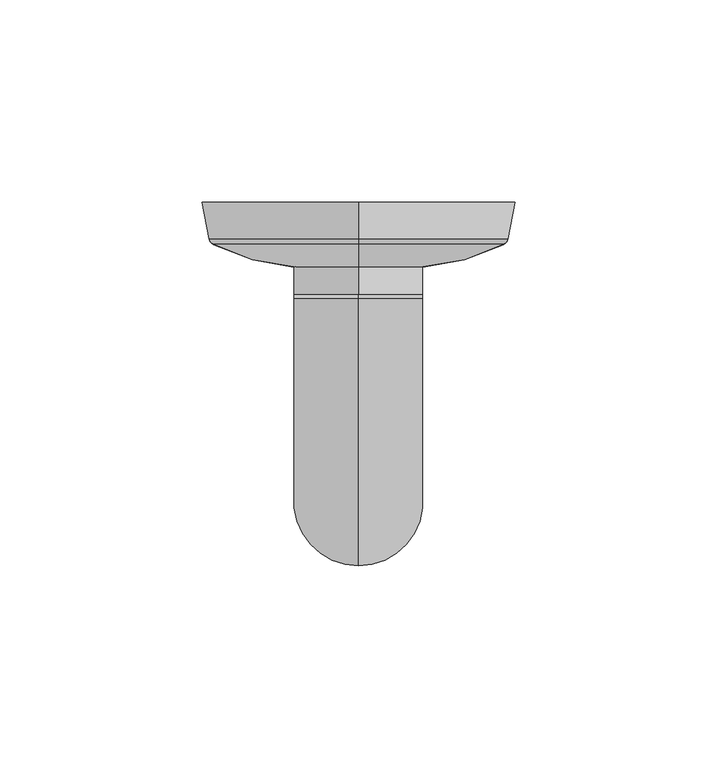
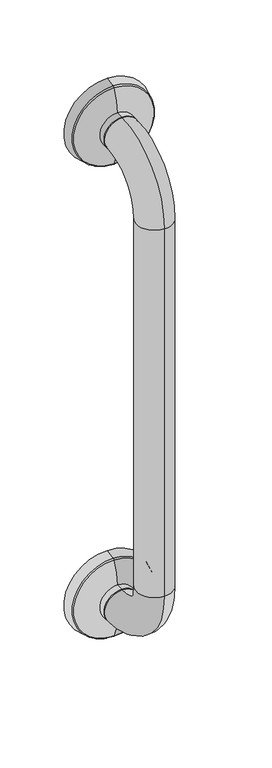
"""IFC4 building model written with IfcOpenShell, lengths in millimetres: proxy geometry, Grab Rail_Metlam_Straight_Vertical : 482long x 90d x 32w (ML330_1SS)."""

from ifc_helpers import new_model, si_unit, point, frame, origin, place, context, project, spatial, polyline, circle_curve, ellipse_curve, trimmed, source, transform, mapped, element, save
from ifc_brep_helpers import plane_surface, cylinder_surface, revolved_surface, advanced_brep


def specialty_equipment_e08adb38(model_context):
    return source(origin(), model_context, "Body", "AdvancedBrep", [
        advanced_brep(
        [(0.0, -90.0, 834.0), (0.0, -24.0, 768.0), (0.0, -24.0, 800.0), (0.0, -58.0, 834.0), (0.0, -58.0, 1184.0), (0.0, -90.0, 1184.0), (0.0, -24.0, 1218.0), (0.0, -24.0, 1250.0), (0.0, -23.0, 768.0), (0.0, -23.0, 800.0), (0.0, -23.0, 1218.0), (0.0, -23.0, 1250.0), (0.0, 0.0, 1234.0), (0.0, 0.0, 1195.0), (0.0, 0.0, 1273.0), (0.0, -9.0646354, 1196.8129271), (0.0, -9.0646354, 1271.1870729), (0.0, -10.4521085, 1270.1384075), (0.0, -10.4521085, 1197.8615925), (0.0, -16.0065539, 1218.0), (0.0, -16.0065539, 1250.0), (0.0, -9.0646354, 746.8129271), (0.0, -9.0646354, 821.1870729), (0.0, 0.0, 823.0), (0.0, 0.0, 745.0), (0.0, -16.0065539, 768.0), (0.0, -16.0065539, 800.0), (0.0, -10.4521085, 820.1384075), (0.0, -10.4521085, 747.8615925), (0.0, 0.0, 784.0)],
        [
            (0, 1, circle_curve(frame((0.0, -24.0, 834.0), z_axis=(1.0, 0.0, 0.0), x_axis=(0.0, 0.0, -1.0)), 66.0)),
            (1, 2, circle_curve(frame((0.0, -24.0, 784.0), z_axis=(0.0, -1.0, 0.0), x_axis=(0.0, 0.0, -1.0)), 16.0)),
            (2, 3, circle_curve(frame((0.0, -24.0, 834.0), z_axis=(-1.0, 0.0, 0.0), x_axis=(0.0, 0.0, -1.0)), 34.0)),
            (3, 0, circle_curve(frame((0.0, -74.0, 834.0), z_axis=(0.0, 0.0, -1.0), x_axis=(0.0, -1.0, 0.0)), 16.0)),
            (0, 3, circle_curve(frame((0.0, -74.0, 834.0), z_axis=(0.0, 0.0, -1.0), x_axis=(0.0, -1.0, 0.0)), 16.0)),
            (2, 1, circle_curve(frame((0.0, -24.0, 784.0), z_axis=(0.0, -1.0, 0.0), x_axis=(0.0, 0.0, -1.0)), 16.0)),
            (3, 4),
            (4, 5, circle_curve(frame((0.0, -74.0, 1184.0), z_axis=(0.0, 0.0, -1.0), x_axis=(0.0, -1.0, 0.0)), 16.0)),
            (5, 0),
            (5, 4, circle_curve(frame((0.0, -74.0, 1184.0), z_axis=(0.0, 0.0, -1.0), x_axis=(0.0, -1.0, 0.0)), 16.0)),
            (4, 6, circle_curve(frame((0.0, -24.0, 1184.0), z_axis=(-1.0, 0.0, 0.0), x_axis=(0.0, -1.0, 0.0)), 34.0)),
            (6, 7, circle_curve(frame((0.0, -24.0, 1234.0), z_axis=(0.0, -1.0, 0.0), x_axis=(0.0, 0.0, 1.0)), 16.0)),
            (7, 5, circle_curve(frame((0.0, -24.0, 1184.0), z_axis=(1.0, 0.0, 0.0), x_axis=(0.0, -1.0, 0.0)), 66.0)),
            (7, 6, circle_curve(frame((0.0, -24.0, 1234.0), z_axis=(0.0, -1.0, 0.0), x_axis=(0.0, 0.0, 1.0)), 16.0)),
            (1, 8),
            (8, 9, circle_curve(frame((0.0, -23.0, 784.0), z_axis=(0.0, -1.0, 0.0), x_axis=(0.0, 0.0, -1.0)), 16.0)),
            (9, 2),
            (9, 8, circle_curve(frame((0.0, -23.0, 784.0), z_axis=(0.0, -1.0, 0.0), x_axis=(0.0, 0.0, -1.0)), 16.0)),
            (6, 10),
            (10, 11, circle_curve(frame((0.0, -23.0, 1234.0), z_axis=(0.0, -1.0, 0.0), x_axis=(0.0, 0.0, 1.0)), 16.0)),
            (11, 7),
            (11, 10, circle_curve(frame((0.0, -23.0, 1234.0), z_axis=(0.0, -1.0, 0.0), x_axis=(0.0, 0.0, 1.0)), 16.0)),
            (12, 13),
            (13, 14, circle_curve(frame((0.0, 0.0, 1234.0), z_axis=(0.0, 1.0, 0.0), x_axis=(0.0, 0.0, -1.0)), 39.0)),
            (14, 12),
            (14, 13, circle_curve(frame((0.0, 0.0, 1234.0), z_axis=(0.0, 1.0, 0.0), x_axis=(0.0, 0.0, -1.0)), 39.0)),
            (13, 15),
            (15, 16, circle_curve(frame((0.0, -9.0646354, 1234.0), z_axis=(0.0, 1.0, 0.0), x_axis=(0.0, 0.0, -1.0)), 37.1870729)),
            (16, 14),
            (16, 15, circle_curve(frame((0.0, -9.0646354, 1234.0), z_axis=(0.0, 1.0, 0.0), x_axis=(0.0, 0.0, -1.0)), 37.1870729)),
            (17, 18, circle_curve(frame((0.0, -10.4521085, 1234.0), z_axis=(0.0, -1.0, 0.0), x_axis=(0.0, 0.0, -1.0)), 36.1384075)),
            (18, 19, circle_curve(frame((0.0, 35.2834961, 1221.3112908), z_axis=(-1.0, 0.0, 0.0), x_axis=(0.0, 1.0, 0.0)), 51.3968275)),
            (19, 20, circle_curve(frame((0.0, -16.0065539, 1234.0), z_axis=(0.0, 1.0, 0.0), x_axis=(0.0, 0.0, -1.0)), 16.0)),
            (20, 17, circle_curve(frame((0.0, 35.2834961, 1246.6887092), z_axis=(-1.0, 0.0, 0.0), x_axis=(0.0, 1.0, 0.0)), 51.3968275)),
            (18, 17, circle_curve(frame((0.0, -10.4521085, 1234.0), z_axis=(0.0, -1.0, 0.0), x_axis=(0.0, 0.0, -1.0)), 36.1384075)),
            (20, 19, circle_curve(frame((0.0, -16.0065539, 1234.0), z_axis=(0.0, 1.0, 0.0), x_axis=(0.0, 0.0, -1.0)), 16.0)),
            (19, 10),
            (11, 20),
            (15, 18, circle_curve(frame((0.0, -8.6724031, 1198.7740884), z_axis=(-1.0, 0.0, 0.0), x_axis=(0.0, 1.0, 0.0)), 2.0)),
            (17, 16, circle_curve(frame((0.0, -8.6724031, 1269.2259116), z_axis=(-1.0, 0.0, 0.0), x_axis=(0.0, 1.0, 0.0)), 2.0)),
            (21, 22, circle_curve(frame((0.0, -9.0646354, 784.0), z_axis=(0.0, 1.0, 0.0), x_axis=(0.0, 0.0, 1.0)), 37.1870729)),
            (22, 23),
            (23, 24, circle_curve(frame((0.0, 0.0, 784.0), z_axis=(0.0, -1.0, 0.0), x_axis=(0.0, 0.0, 1.0)), 39.0)),
            (24, 21),
            (22, 21, circle_curve(frame((0.0, -9.0646354, 784.0), z_axis=(0.0, 1.0, 0.0), x_axis=(0.0, 0.0, 1.0)), 37.1870729)),
            (24, 23, circle_curve(frame((0.0, 0.0, 784.0), z_axis=(0.0, -1.0, 0.0), x_axis=(0.0, 0.0, 1.0)), 39.0)),
            (25, 26, circle_curve(frame((0.0, -16.0065539, 784.0), z_axis=(0.0, 1.0, 0.0), x_axis=(0.0, 0.0, 1.0)), 16.0)),
            (26, 27, circle_curve(frame((0.0, 35.2834961, 796.6887092), z_axis=(-1.0, 0.0, 0.0), x_axis=(0.0, 1.0, 0.0)), 51.3968275)),
            (27, 28, circle_curve(frame((0.0, -10.4521085, 784.0), z_axis=(0.0, -1.0, 0.0), x_axis=(0.0, 0.0, 1.0)), 36.1384075)),
            (28, 25, circle_curve(frame((0.0, 35.2834961, 771.3112908), z_axis=(-1.0, 0.0, 0.0), x_axis=(0.0, 1.0, 0.0)), 51.3968275)),
            (26, 25, circle_curve(frame((0.0, -16.0065539, 784.0), z_axis=(0.0, 1.0, 0.0), x_axis=(0.0, 0.0, 1.0)), 16.0)),
            (28, 27, circle_curve(frame((0.0, -10.4521085, 784.0), z_axis=(0.0, -1.0, 0.0), x_axis=(0.0, 0.0, 1.0)), 36.1384075)),
            (25, 8),
            (9, 26),
            (23, 29),
            (29, 24),
            (21, 28, circle_curve(frame((0.0, -8.6724031, 748.7740884), z_axis=(-1.0, 0.0, 0.0), x_axis=(0.0, 1.0, 0.0)), 2.0)),
            (27, 22, circle_curve(frame((0.0, -8.6724031, 819.2259116), z_axis=(-1.0, 0.0, 0.0), x_axis=(0.0, 1.0, 0.0)), 2.0)),
        ],
        [
            revolved_surface(trimmed(ellipse_curve(frame((0.0, -24.0, 784.0), z_axis=(0.0, 1.0, 0.0), x_axis=(0.0, 0.0, -1.0)), 16.0, 16.0), [point((0.0, -24.0, 800.0))], [point((0.0, -24.0, 768.0))], True, "CARTESIAN"), (0.0, -24.0, 834.0), (-1.0, 0.0, 0.0)),
            revolved_surface(trimmed(ellipse_curve(frame((0.0, -24.0, 784.0), z_axis=(0.0, 1.0, 0.0), x_axis=(0.0, 0.0, -1.0)), 16.0, 16.0), [point((0.0, -24.0, 768.0))], [point((0.0, -24.0, 800.0))], True, "CARTESIAN"), (0.0, -24.0, 834.0), (-1.0, 0.0, 0.0)),
            cylinder_surface(frame((0.0, -74.0, 834.0), z_axis=(0.0, 0.0, -1.0), x_axis=(0.0, -1.0, 0.0)), 16.0),
            revolved_surface(trimmed(ellipse_curve(frame((0.0, -74.0, 1184.0), z_axis=(0.0, 0.0, -1.0), x_axis=(0.0, -1.0, 0.0)), 16.0, 16.0), [point((0.0, -58.0, 1184.0))], [point((0.0, -90.0, 1184.0))], True, "CARTESIAN"), (0.0, -24.0, 1184.0), (-1.0, 0.0, 0.0)),
            revolved_surface(trimmed(ellipse_curve(frame((0.0, -74.0, 1184.0), z_axis=(0.0, 0.0, -1.0), x_axis=(0.0, -1.0, 0.0)), 16.0, 16.0), [point((0.0, -90.0, 1184.0))], [point((0.0, -58.0, 1184.0))], True, "CARTESIAN"), (0.0, -24.0, 1184.0), (-1.0, 0.0, 0.0)),
            cylinder_surface(frame((0.0, -23.0, 784.0), z_axis=(0.0, 1.0, 0.0), x_axis=(0.0, 0.0, -1.0)), 16.0),
            cylinder_surface(frame((0.0, -24.0, 1234.0), z_axis=(0.0, -1.0, 0.0), x_axis=(0.0, 0.0, 1.0)), 16.0),
            plane_surface(frame((0.0, 0.0, 1234.0), z_axis=(0.0, 1.0, 0.0), x_axis=(0.0, 0.0, -1.0))),
            revolved_surface(polyline([(0.0, -9.0646354, 1196.8129271), (0.0, 0.0, 1195.0)]), (0.0, -10.0, 1234.0), (0.0, 1.0, 0.0)),
            revolved_surface(trimmed(ellipse_curve(frame((0.0, 35.2834961, 1221.3112908), z_axis=(1.0, 0.0, 0.0), x_axis=(0.0, 1.0, 0.0)), 51.3968275, 51.3968275), [point((0.0, -16.0065539, 1218.0))], [point((0.0, -10.4521085, 1197.8615925))], True, "CARTESIAN"), (0.0, -10.0, 1234.0), (0.0, 1.0, 0.0)),
            cylinder_surface(frame((0.0, -10.0, 1234.0), z_axis=(0.0, 1.0, 0.0), x_axis=(0.0, 0.0, -1.0)), 16.0),
            revolved_surface(trimmed(ellipse_curve(frame((0.0, -8.6724031, 1198.7740884), z_axis=(1.0, 0.0, 0.0), x_axis=(0.0, 1.0, 0.0)), 2.0, 2.0), [point((0.0, -10.4521085, 1197.8615925))], [point((0.0, -9.0646354, 1196.8129271))], True, "CARTESIAN"), (0.0, -10.0, 1234.0), (0.0, 1.0, 0.0)),
            revolved_surface(polyline([(0.0, 0.0, 823.0), (0.0, -9.0646354, 821.1870729)]), (0.0, -10.0, 784.0), (0.0, -1.0, 0.0)),
            revolved_surface(trimmed(ellipse_curve(frame((0.0, 35.2834961, 796.6887092), z_axis=(1.0, 0.0, 0.0), x_axis=(0.0, 1.0, 0.0)), 51.3968275, 51.3968275), [point((0.0, -10.4521085, 820.1384075))], [point((0.0, -16.0065539, 800.0))], True, "CARTESIAN"), (0.0, -10.0, 784.0), (0.0, -1.0, 0.0)),
            cylinder_surface(frame((0.0, -10.0, 784.0), z_axis=(0.0, -1.0, 0.0), x_axis=(0.0, 0.0, 1.0)), 16.0),
            plane_surface(frame((0.0, 0.0, 784.0), z_axis=(0.0, 1.0, 0.0), x_axis=(0.0, 0.0, 1.0))),
            revolved_surface(trimmed(ellipse_curve(frame((0.0, -8.6724031, 819.2259116), z_axis=(1.0, 0.0, 0.0), x_axis=(0.0, 1.0, 0.0)), 2.0, 2.0), [point((0.0, -9.0646354, 821.1870729))], [point((0.0, -10.4521085, 820.1384075))], True, "CARTESIAN"), (0.0, -10.0, 784.0), (0.0, -1.0, 0.0)),
        ],
        [
            (0, [[1, 2, 3, 4]]),
            (1, [[-1, 5, -3, 6]]),
            (2, [[-4, 7, 8, 9]]),
            (2, [[-5, -9, 10, -7]]),
            (3, [[-8, 11, 12, 13]]),
            (4, [[-10, -13, 14, -11]]),
            (5, [[-2, 15, 16, 17]]),
            (5, [[-6, -17, 18, -15]]),
            (6, [[-12, 19, 20, 21]]),
            (6, [[-14, -21, 22, -19]]),
            (7, [[23, 24, 25]]),
            (7, [[-23, -25, 26]]),
            (8, [[-24, 27, 28, 29]]),
            (8, [[-26, -29, 30, -27]]),
            (9, [[31, 32, 33, 34]]),
            (9, [[-32, 35, -34, 36]]),
            (10, [[-33, 37, -22, 38]]),
            (10, [[-36, -38, -20, -37]]),
            (11, [[-28, 39, -31, 40]]),
            (11, [[-30, -40, -35, -39]]),
            (12, [[41, 42, 43, 44]]),
            (12, [[-42, 45, -44, 46]]),
            (13, [[47, 48, 49, 50]]),
            (13, [[-48, 51, -50, 52]]),
            (14, [[-47, 53, -18, 54]]),
            (14, [[-51, -54, -16, -53]]),
            (15, [[-43, 55, 56]]),
            (15, [[-46, -56, -55]]),
            (16, [[-41, 57, -49, 58]]),
            (16, [[-45, -58, -52, -57]]),
        ],
    ),
    ])


if __name__ == "__main__":
    model = new_model("IFC4")
    model_context = context("Model", 3, world=origin())
    ifc_project = project(units=[si_unit("LENGTHUNIT", "METRE", prefix="MILLI")], contexts=[model_context])
    site = spatial("IfcSite", under=ifc_project)
    building = spatial("IfcBuilding", under=site)
    placement = place(None, origin())
    specialty_equipment_shape = specialty_equipment_e08adb38(model_context)
    element("IfcBuildingElementProxy", 1, Name="Grab Rail_Metlam_Straight_Vertical : 482long x 90d x 32w (ML330_1SS)", ObjectType="Grab Rail_Metlam_Straight_Vertical : 482long x 90d x 32w (ML330_1SS)", at=placement, inside=building, context=model_context, shape_type="MappedRepresentation", body=[
        mapped(specialty_equipment_shape, transform((0.0, 0.0, 0.0), x_axis=(1.0, 0.0, 0.0), y_axis=(0.0, 1.0, 0.0), z_axis=(0.0, 0.0, 1.0))),
    ])
    save(model, "model.ifc")
